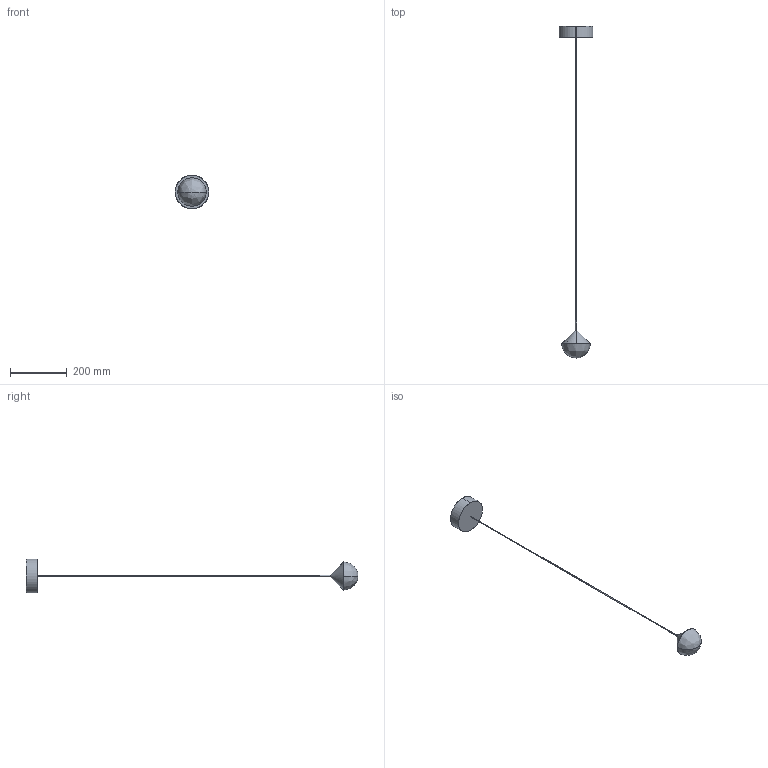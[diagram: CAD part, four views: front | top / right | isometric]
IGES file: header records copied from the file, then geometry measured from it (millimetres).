
Start section: SolidWorks IGES file using analytic representation for surfaces
Global section: file name: C:\Users\adrian\Desktop\MODELADOS USA\NINO\CU1275_NINO.IGS; native system: SolidWorks 2023; preprocessor: SolidWorks 2023; author: adrian; date: 260605.093241; units: inch
Bounding box: 119.89 x 1174.88 x 119.89 mm (x, y, z)
Surface area: 111754.5 mm2 (no closed solid volume)
Topology: 0 solids, 0 shells, 33 faces, 1000 edges, 996 vertices
Faces by surface type: bspline 31, revolution 2
